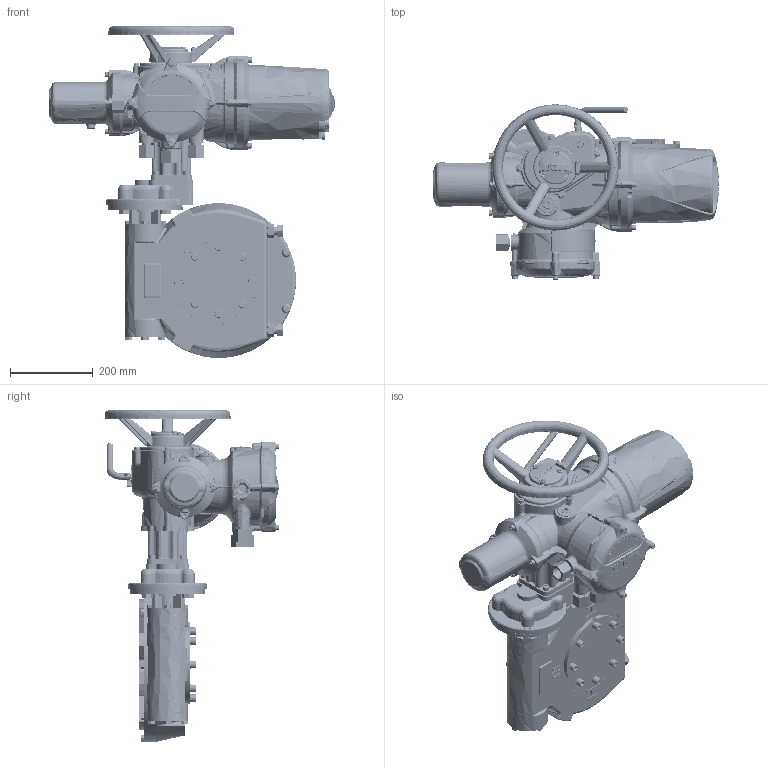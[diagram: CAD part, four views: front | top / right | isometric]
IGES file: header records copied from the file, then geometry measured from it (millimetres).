
Start section: C
Global section: file name: II1THWIWD6RLSTD-1.igs; native system: By Siemens PLM Incorporated; preprocessor: XPlus GENERIC/IGES 17.0.49; author: Author; organization: Title; date: 20150721.085549; units: millimetre
Bounding box: 692.3 x 423.68 x 804.19 mm (x, y, z)
Surface area: 1503526.6 mm2 (no closed solid volume)
Topology: 0 solids, 0 shells, 8357 faces, 45935 edges, 45547 vertices
Faces by surface type: bspline 8357
